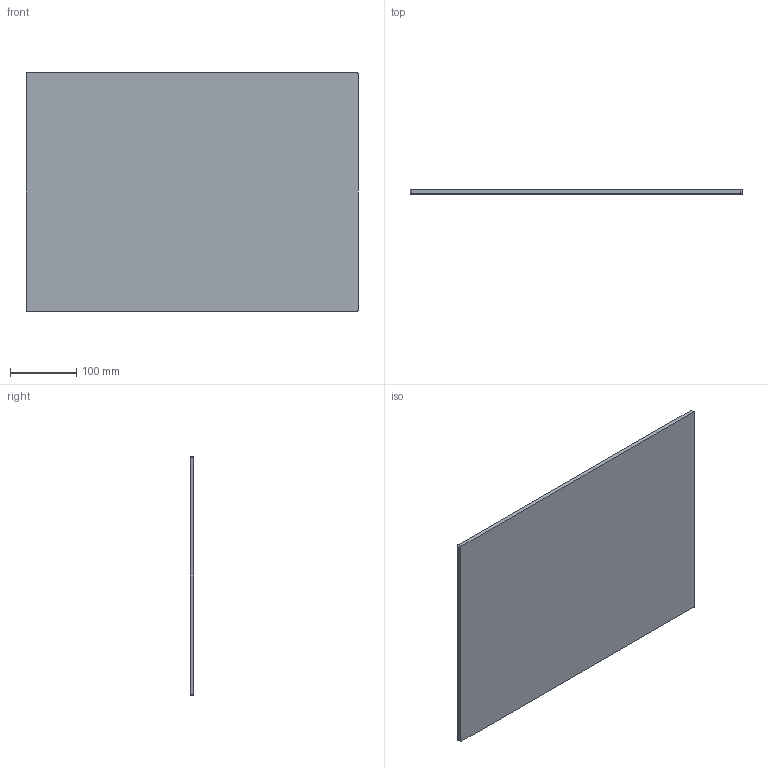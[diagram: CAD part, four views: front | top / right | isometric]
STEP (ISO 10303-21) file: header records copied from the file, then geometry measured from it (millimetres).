
FILE_DESCRIPTION (( 'STEP AP214' ), '1' );
FILE_NAME ('Bastidor.STEP', '2019-05-12T01:56:15', ( '' ), ( '' ), 'SwSTEP 2.0', 'SolidWorks 2018', '' );
FILE_SCHEMA (( 'AUTOMOTIVE_DESIGN' ));
Length unit declared in the file: millimetre
Products named in the file (1): Bastidor
Bounding box: 500 x 6 x 360 mm (x, y, z)
Volume: 1079670.3 mm3; surface area: 370556.4 mm2
Topology: 1 solids, 1 shells, 64 faces, 132 edges, 88 vertices
Faces by surface type: cylinder 40, plane 24
Entity records: 1770 total; most frequent: DIRECTION 342, CARTESIAN_POINT 285, ORIENTED_EDGE 264, AXIS2_PLACEMENT_3D 145, EDGE_CURVE 132, VERTEX_POINT 88, EDGE_LOOP 82, CIRCLE 80
